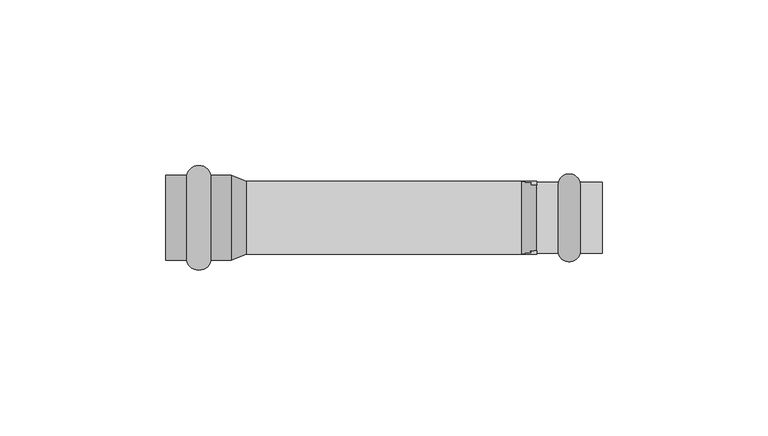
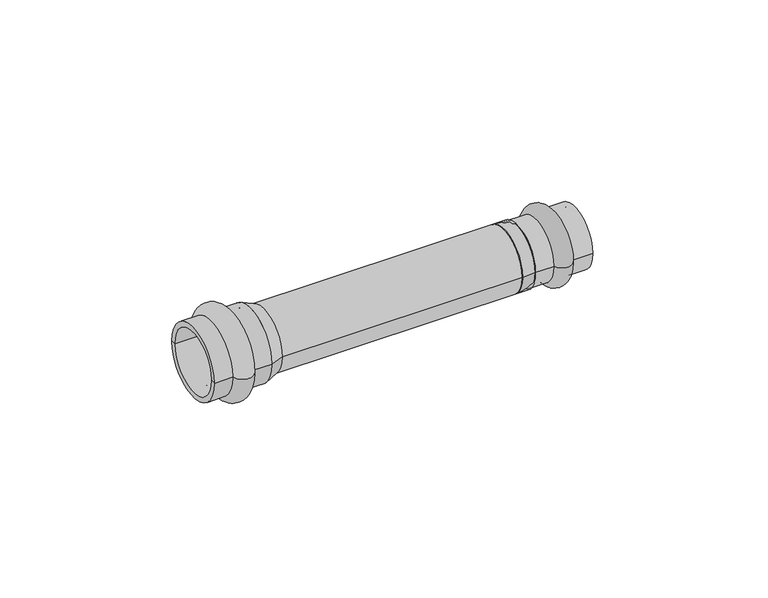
"""IFC4 building model written with IfcOpenShell, lengths in millimetres: pipe fitting geometry, VALTEC_VTi.903.I_Соединитель прямой нержавеющая сталь : VTi.903.I."""

from ifc_helpers import new_model, si_unit, point, frame, origin, origin_2d, place, context, project, spatial, polyline, circle_curve, ellipse_curve, trimmed, segment, composite_curve, outline, extrude, source, transform, mapped, element, save
from ifc_brep_helpers import plane_surface, cylinder_surface, revolved_surface, advanced_brep


def pipe_fitting_d608e077(model_context):
    return source(origin(), model_context, "Body", "SolidModel", [
        advanced_brep(
        [(125.2287193, 10.75, 0.0), (125.2287193, -10.75, 0.0), (118.6712807, -10.75, 0.0), (118.6712807, 10.75, 0.0), (132.0, 10.75, 0.0), (132.0, -10.75, 0.0), (132.0, 9.0, 0.0), (132.0, -9.0, 0.0), (112.2, 9.0, 0.0), (112.2, -9.0, 0.0), (112.2, 10.75, 0.0), (112.2, -10.75, 0.0)],
        [
            (0, 1, circle_curve(frame((125.2287193, 0.0, 0.0), z_axis=(-1.0, 0.0, 0.0), x_axis=(0.0, -1.0, 0.0)), 10.75)),
            (1, 2, circle_curve(frame((121.95, -9.85, 0.0), z_axis=(0.0, 0.0, -1.0), x_axis=(-1.0, 0.0, 0.0)), 3.4)),
            (2, 3, circle_curve(frame((118.6712807, 0.0, 0.0), z_axis=(1.0, 0.0, 0.0), x_axis=(0.0, -1.0, 0.0)), 10.75)),
            (3, 0, circle_curve(frame((121.95, 9.85, 0.0), z_axis=(0.0, 0.0, -1.0), x_axis=(-1.0, 0.0, 0.0)), 3.4)),
            (1, 0, circle_curve(frame((125.2287193, 0.0, 0.0), z_axis=(-1.0, 0.0, 0.0), x_axis=(0.0, -1.0, 0.0)), 10.75)),
            (3, 2, circle_curve(frame((118.6712807, 0.0, 0.0), z_axis=(1.0, 0.0, 0.0), x_axis=(0.0, -1.0, 0.0)), 10.75)),
            (4, 5, circle_curve(frame((132.0, 0.0, 0.0), z_axis=(-1.0, 0.0, 0.0), x_axis=(0.0, -1.0, 0.0)), 10.75)),
            (5, 1),
            (0, 4),
            (5, 4, circle_curve(frame((132.0, 0.0, 0.0), z_axis=(-1.0, 0.0, 0.0), x_axis=(0.0, -1.0, 0.0)), 10.75)),
            (6, 7, circle_curve(frame((132.0, 0.0, 0.0), z_axis=(-1.0, 0.0, 0.0), x_axis=(0.0, -1.0, 0.0)), 9.0)),
            (7, 5),
            (4, 6),
            (7, 6, circle_curve(frame((132.0, 0.0, 0.0), z_axis=(-1.0, 0.0, 0.0), x_axis=(0.0, -1.0, 0.0)), 9.0)),
            (8, 9, circle_curve(frame((112.2, 0.0, 0.0), z_axis=(-1.0, 0.0, 0.0), x_axis=(0.0, -1.0, 0.0)), 9.0)),
            (9, 7),
            (6, 8),
            (9, 8, circle_curve(frame((112.2, 0.0, 0.0), z_axis=(-1.0, 0.0, 0.0), x_axis=(0.0, -1.0, 0.0)), 9.0)),
            (10, 11, circle_curve(frame((112.2, 0.0, 0.0), z_axis=(-1.0, 0.0, 0.0), x_axis=(0.0, -1.0, 0.0)), 10.75)),
            (11, 9),
            (8, 10),
            (11, 10, circle_curve(frame((112.2, 0.0, 0.0), z_axis=(-1.0, 0.0, 0.0), x_axis=(0.0, -1.0, 0.0)), 10.75)),
            (2, 11),
            (10, 3),
        ],
        [
            revolved_surface(trimmed(ellipse_curve(frame((121.95, -9.85, 0.0), z_axis=(0.0, 0.0, 1.0), x_axis=(-1.0, 0.0, 0.0)), 3.4, 3.4), [point((118.6712807, -10.75, 0.0))], [point((125.2287193, -10.75, 0.0))], True, "CARTESIAN"), (135.5364426, 0.0, 0.0), (1.0, 0.0, 0.0)),
            cylinder_surface(frame((135.5364426, 0.0, 0.0), z_axis=(1.0, 0.0, 0.0), x_axis=(0.0, -1.0, 0.0)), 10.75),
            plane_surface(frame((132.0, 0.0, 0.0), z_axis=(1.0, 0.0, 0.0), x_axis=(0.0, -1.0, 0.0))),
            revolved_surface(polyline([(132.0, -9.0, 0.0), (112.2, -9.0, 0.0)]), (135.5364426, 0.0, 0.0), (1.0, 0.0, 0.0)),
            plane_surface(frame((112.2, 0.0, 0.0), z_axis=(-1.0, 0.0, 0.0), x_axis=(0.0, -1.0, 0.0))),
        ],
        [
            (0, [[1, 2, 3, 4]]),
            (0, [[5, -4, 6, -2]]),
            (1, [[7, 8, -1, 9]]),
            (1, [[10, -9, -5, -8]]),
            (2, [[11, 12, -7, 13]]),
            (2, [[14, -13, -10, -12]]),
            (3, [[15, 16, -11, 17]]),
            (3, [[18, -17, -14, -16]]),
            (4, [[19, 20, -15, 21]]),
            (4, [[22, -21, -18, -20]]),
            (1, [[-3, 23, -19, 24]]),
            (1, [[-6, -24, -22, -23]]),
        ],
    ),
        advanced_brep(
        [(6.3757654, -12.8, 0.0), (6.3757654, 12.8, 0.0), (13.7242346, 12.8, 0.0), (13.7242346, -12.8, 0.0), (0.0, -12.8, 0.0), (0.0, 12.8, 0.0), (0.0, -11.0, 0.0), (0.0, 11.0, 0.0), (19.8, -11.0, 0.0), (19.8, 11.0, 0.0), (19.8, -12.8, 0.0), (19.8, 12.8, 0.0)],
        [
            (0, 1, circle_curve(frame((6.3757654, 0.0, 0.0), z_axis=(1.0, 0.0, 0.0), x_axis=(0.0, 1.0, 0.0)), 12.8)),
            (1, 2, circle_curve(frame((10.05, 12.05, 0.0), z_axis=(0.0, 0.0, -1.0), x_axis=(1.0, 0.0, 0.0)), 3.75)),
            (2, 3, circle_curve(frame((13.7242346, 0.0, 0.0), z_axis=(-1.0, 0.0, 0.0), x_axis=(0.0, 1.0, 0.0)), 12.8)),
            (3, 0, circle_curve(frame((10.05, -12.05, 0.0), z_axis=(0.0, 0.0, -1.0), x_axis=(1.0, 0.0, 0.0)), 3.75)),
            (1, 0, circle_curve(frame((6.3757654, 0.0, 0.0), z_axis=(1.0, 0.0, 0.0), x_axis=(0.0, 1.0, 0.0)), 12.8)),
            (3, 2, circle_curve(frame((13.7242346, 0.0, 0.0), z_axis=(-1.0, 0.0, 0.0), x_axis=(0.0, 1.0, 0.0)), 12.8)),
            (4, 5, circle_curve(frame((0.0, 0.0, 0.0), z_axis=(1.0, 0.0, 0.0), x_axis=(0.0, 1.0, 0.0)), 12.8)),
            (5, 1),
            (0, 4),
            (5, 4, circle_curve(frame((0.0, 0.0, 0.0), z_axis=(1.0, 0.0, 0.0), x_axis=(0.0, 1.0, 0.0)), 12.8)),
            (6, 7, circle_curve(frame((0.0, 0.0, 0.0), z_axis=(1.0, 0.0, 0.0), x_axis=(0.0, 1.0, 0.0)), 11.0)),
            (7, 5),
            (4, 6),
            (7, 6, circle_curve(frame((0.0, 0.0, 0.0), z_axis=(1.0, 0.0, 0.0), x_axis=(0.0, 1.0, 0.0)), 11.0)),
            (8, 9, circle_curve(frame((19.8, 0.0, 0.0), z_axis=(1.0, 0.0, 0.0), x_axis=(0.0, 1.0, 0.0)), 11.0)),
            (9, 7),
            (6, 8),
            (9, 8, circle_curve(frame((19.8, 0.0, 0.0), z_axis=(1.0, 0.0, 0.0), x_axis=(0.0, 1.0, 0.0)), 11.0)),
            (10, 11, circle_curve(frame((19.8, 0.0, 0.0), z_axis=(1.0, 0.0, 0.0), x_axis=(0.0, 1.0, 0.0)), 12.8)),
            (11, 9),
            (8, 10),
            (11, 10, circle_curve(frame((19.8, 0.0, 0.0), z_axis=(1.0, 0.0, 0.0), x_axis=(0.0, 1.0, 0.0)), 12.8)),
            (2, 11),
            (10, 3),
        ],
        [
            revolved_surface(trimmed(ellipse_curve(frame((10.05, 12.05, 0.0), z_axis=(0.0, 0.0, 1.0), x_axis=(1.0, 0.0, 0.0)), 3.75, 3.75), [point((13.7242346, 12.8, 0.0))], [point((6.3757654, 12.8, 0.0))], True, "CARTESIAN"), (-3.5364426, 0.0, 0.0), (-1.0, 0.0, 0.0)),
            cylinder_surface(frame((-3.5364426, 0.0, 0.0), z_axis=(-1.0, 0.0, 0.0), x_axis=(0.0, 1.0, 0.0)), 12.8),
            plane_surface(frame((0.0, 0.0, 0.0), z_axis=(-1.0, 0.0, 0.0), x_axis=(0.0, 1.0, 0.0))),
            revolved_surface(polyline([(0.0, 11.0, 0.0), (19.8, 11.0, 0.0)]), (-3.5364426, 0.0, 0.0), (-1.0, 0.0, 0.0)),
            plane_surface(frame((19.8, 0.0, 0.0), z_axis=(1.0, 0.0, 0.0), x_axis=(0.0, 1.0, 0.0))),
        ],
        [
            (0, [[1, 2, 3, 4]]),
            (0, [[5, -4, 6, -2]]),
            (1, [[7, 8, -1, 9]]),
            (1, [[10, -9, -5, -8]]),
            (2, [[11, 12, -7, 13]]),
            (2, [[14, -13, -10, -12]]),
            (3, [[15, 16, -11, 17]]),
            (3, [[18, -17, -14, -16]]),
            (4, [[19, 20, -15, 21]]),
            (4, [[22, -21, -18, -20]]),
            (1, [[-3, 23, -19, 24]]),
            (1, [[-6, -24, -22, -23]]),
        ],
    ),
        advanced_brep(
        [(19.8, -12.8, 0.0), (19.8, 12.8, 0.0), (24.42, -11.0, 0.0), (24.42, 11.0, 0.0)],
        [
            (0, 1, circle_curve(frame((19.8, 0.0, 0.0), z_axis=(-1.0, 0.0, 0.0), x_axis=(0.0, -1.0, 0.0)), 12.8)),
            (1, 0, circle_curve(frame((19.8, 0.0, 0.0), z_axis=(-1.0, 0.0, 0.0), x_axis=(0.0, 1.0, 0.0)), 12.8)),
            (2, 3, circle_curve(frame((24.42, 0.0, 0.0), z_axis=(1.0, 0.0, 0.0), x_axis=(0.0, 1.0, 0.0)), 11.0)),
            (3, 2, circle_curve(frame((24.42, 0.0, 0.0), z_axis=(1.0, 0.0, 0.0), x_axis=(0.0, -1.0, 0.0)), 11.0)),
            (2, 0),
            (1, 3),
        ],
        [
            plane_surface(frame((19.8, 0.0, 0.0), z_axis=(-1.0, 0.0, 0.0), x_axis=(0.0, 0.0, 1.0))),
            plane_surface(frame((24.42, 0.0, 0.0), z_axis=(1.0, 0.0, 0.0), x_axis=(0.0, 0.0, 1.0))),
            revolved_surface(polyline([(24.42, -10.999999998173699, 0.0), (19.799999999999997, -12.8, 0.0)]), (52.6533333, 0.0, 0.0), (-1.0, 0.0, 0.0)),
            revolved_surface(polyline([(24.42, 10.999999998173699, 0.0), (19.799999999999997, 12.8, 0.0)]), (52.6533333, 0.0, 0.0), (-1.0, 0.0, 0.0)),
        ],
        [
            (0, [[1, 2]]),
            (1, [[3, 4]]),
            (2, [[-3, 5, -2, 6]]),
            (3, [[-4, -6, -1, -5]]),
        ],
    ),
        advanced_brep(
        [(112.2, -10.75, 0.0), (112.2, 10.75, 0.0), (107.58, -11.0, 0.0), (107.58, 11.0, 0.0)],
        [
            (0, 1, circle_curve(frame((112.2, 0.0, 0.0), z_axis=(1.0, 0.0, 0.0), x_axis=(0.0, -1.0, 0.0)), 10.75)),
            (1, 0, circle_curve(frame((112.2, 0.0, 0.0), z_axis=(1.0, 0.0, 0.0), x_axis=(0.0, 1.0, 0.0)), 10.75)),
            (2, 3, circle_curve(frame((107.58, 0.0, 0.0), z_axis=(-1.0, 0.0, 0.0), x_axis=(0.0, 1.0, 0.0)), 11.0)),
            (3, 2, circle_curve(frame((107.58, 0.0, 0.0), z_axis=(-1.0, 0.0, 0.0), x_axis=(0.0, -1.0, 0.0)), 11.0)),
            (3, 1),
            (0, 2),
        ],
        [
            plane_surface(frame((112.2, 0.0, 0.0), z_axis=(1.0, 0.0, 0.0), x_axis=(0.0, 0.0, -1.0))),
            plane_surface(frame((107.58, 0.0, 0.0), z_axis=(-1.0, 0.0, 0.0), x_axis=(0.0, 0.0, -1.0))),
            revolved_surface(polyline([(112.19999999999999, -10.75, 0.0), (107.57999999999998, -11.0, 0.0)]), (310.86, 0.0, 0.0), (-1.0, 0.0, 0.0)),
            revolved_surface(polyline([(112.19999999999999, 10.75, 0.0), (107.57999999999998, 11.0, 0.0)]), (310.86, 0.0, 0.0), (-1.0, 0.0, 0.0)),
        ],
        [
            (0, [[1, 2]]),
            (1, [[3, 4]]),
            (2, [[-4, 5, -1, 6]]),
            (3, [[-3, -6, -2, -5]]),
        ],
    ),
        extrude(outline(composite_curve([segment(trimmed(circle_curve(origin_2d(), 11.0), [point((-11.0, 0.0))], [point((11.0, 0.0))], False, "CARTESIAN"), True, "CONTINUOUS"), segment(trimmed(circle_curve(origin_2d(), 11.0), [point((11.0, 0.0))], [point((-11.0, 0.0))], False, "CARTESIAN"), True, "CONTINUOUS")], self_intersect=False)), frame((19.8, 0.0, 0.0), z_axis=(1.0, 0.0, 0.0), x_axis=(0.0, 1.0, 0.0)), (0.0, 0.0, 1.0), 92.4),
    ])


if __name__ == "__main__":
    model = new_model("IFC4")
    model_context = context("Model", 3, world=origin())
    ifc_project = project(units=[si_unit("LENGTHUNIT", "METRE", prefix="MILLI")], contexts=[model_context])
    site = spatial("IfcSite", under=ifc_project)
    building = spatial("IfcBuilding", under=site)
    placement = place(None, origin())
    pipe_fitting_shape = pipe_fitting_d608e077(model_context)
    element("IfcPipeFitting", 1, ObjectType="VALTEC_VTi.903.I_Соединитель прямой нержавеющая сталь : VTi.903.I", at=placement, inside=building, context=model_context, shape_type="MappedRepresentation", body=[
        mapped(pipe_fitting_shape, transform((0.0, 0.0, 0.0), x_axis=(1.0, 0.0, 0.0), y_axis=(0.0, 1.0, 0.0), z_axis=(0.0, 0.0, 1.0))),
    ])
    save(model, "model.ifc")
